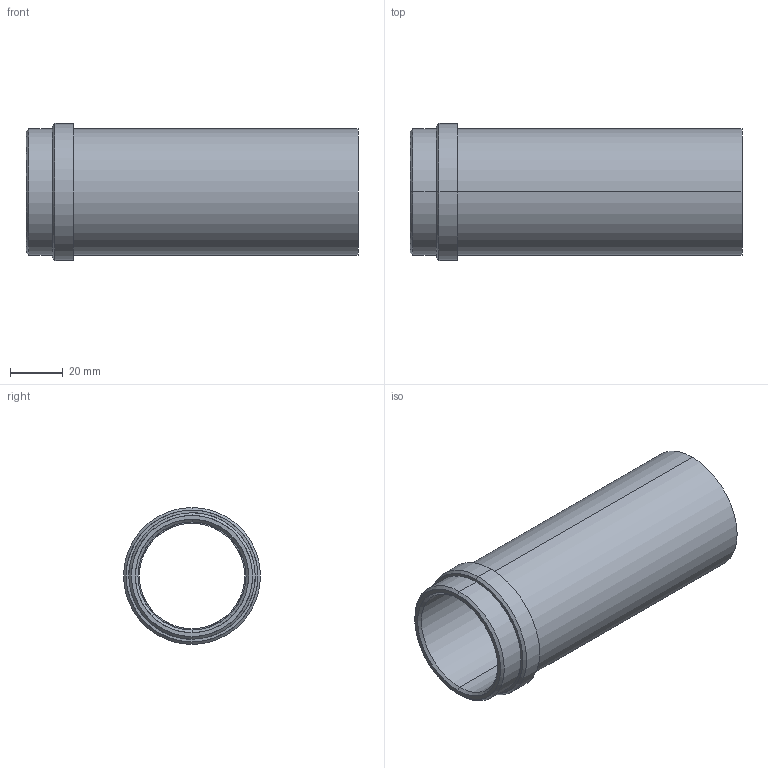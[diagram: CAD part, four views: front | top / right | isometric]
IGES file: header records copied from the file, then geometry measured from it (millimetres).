
Start section: START RECORD GO HERE.
Global section: file name: 358-40x126.igs; native system: DASSAULT SYSTEMES CATIA V5 R20 - www.3ds.com; preprocessor: CATIA Version 5 Release 20 ; author: Utente; organization: NB04-ASUS; date: 20210409.164556; units: millimetre
Bounding box: 126 x 52 x 52 mm (x, y, z)
Surface area: 36446.3 mm2 (no closed solid volume)
Topology: 0 solids, 0 shells, 23 faces, 148 edges, 148 vertices
Faces by surface type: revolution 18, plane 5
